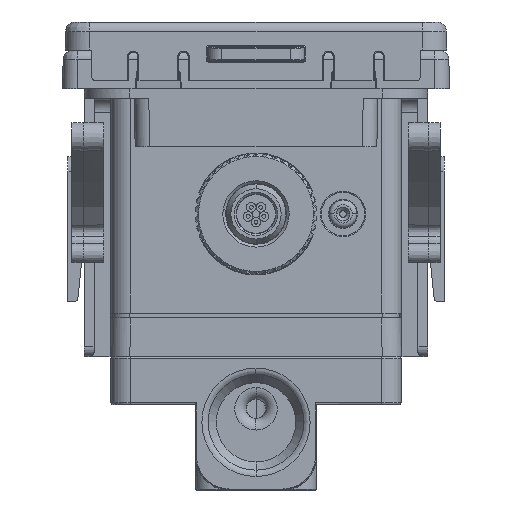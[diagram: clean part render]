
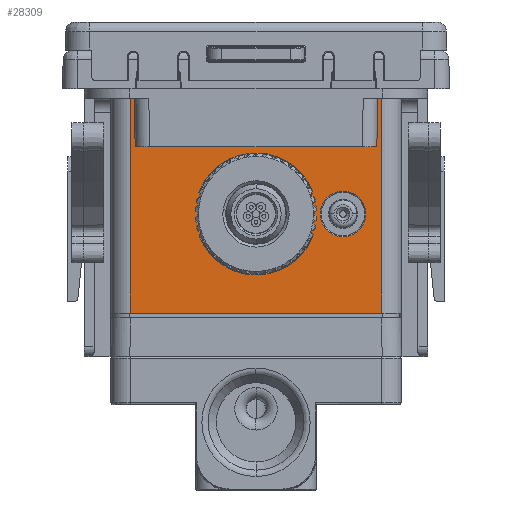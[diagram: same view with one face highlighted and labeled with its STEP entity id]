
A CAD part, front view. The second image highlights one B-rep face of the part: STEP entity #28309.
In plain terms, the highlighted planar face has unit normal (0, -1, 0).
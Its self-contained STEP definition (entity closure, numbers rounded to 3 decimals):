
#3234=DIRECTION('',(1.,0.,0.));
#3235=VECTOR('',#3234,26.);
#3236=CARTESIAN_POINT('',(-13.,-15.,4.5));
#3237=LINE('',#3236,#3235);
#3238=DIRECTION('',(0.,0.,-1.));
#3239=VECTOR('',#3238,25.2);
#3240=CARTESIAN_POINT('',(-13.,-15.,29.7));
#3241=LINE('',#3240,#3239);
#3242=DIRECTION('',(1.,0.,0.));
#3243=VECTOR('',#3242,26.);
#3244=CARTESIAN_POINT('',(-13.,-15.,29.7));
#3245=LINE('',#3244,#3243);
#3246=DIRECTION('',(0.,0.,-1.));
#3247=VECTOR('',#3246,25.2);
#3248=CARTESIAN_POINT('',(13.,-15.,29.7));
#3249=LINE('',#3248,#3247);
#3250=CARTESIAN_POINT('',(0.,-15.,14.75));
#3251=DIRECTION('',(0.,-1.,0.));
#3252=DIRECTION('',(-0.898,0.,-0.44));
#3253=AXIS2_PLACEMENT_3D('',#3250,#3251,#3252);
#3255=DIRECTION('',(-0.017,0.,-1.));
#3256=VECTOR('',#3255,2.35);
#3257=CARTESIAN_POINT('',(5.8,-15.,14.75));
#3258=LINE('',#3257,#3256);
#3259=DIRECTION('',(0.017,0.,-1.));
#3260=VECTOR('',#3259,2.35);
#3261=CARTESIAN_POINT('',(5.759,-15.,17.1));
#3262=LINE('',#3261,#3260);
#3263=CARTESIAN_POINT('',(0.,-15.,14.75));
#3264=DIRECTION('',(0.,-1.,0.));
#3265=DIRECTION('',(0.898,0.,0.44));
#3266=AXIS2_PLACEMENT_3D('',#3263,#3264,#3265);
#3268=DIRECTION('',(0.017,0.,1.));
#3269=VECTOR('',#3268,2.35);
#3270=CARTESIAN_POINT('',(-5.8,-15.,14.75));
#3271=LINE('',#3270,#3269);
#3272=DIRECTION('',(-0.017,0.,1.));
#3273=VECTOR('',#3272,2.35);
#3274=CARTESIAN_POINT('',(-5.759,-15.,12.4));
#3275=LINE('',#3274,#3273);
#3276=CARTESIAN_POINT('',(9.,-15.,14.75));
#3277=DIRECTION('',(0.,1.,0.));
#3278=DIRECTION('',(-1.,0.,0.));
#3279=AXIS2_PLACEMENT_3D('',#3276,#3277,#3278);
#3281=CARTESIAN_POINT('',(9.,-15.,14.75));
#3282=DIRECTION('',(0.,1.,0.));
#3283=DIRECTION('',(1.,0.,0.));
#3284=AXIS2_PLACEMENT_3D('',#3281,#3282,#3283);
#14202=CARTESIAN_POINT('',(-4.759,-15.,17.083));
#14203=DIRECTION('',(0.,1.,0.));
#14204=DIRECTION('',(-1.,0.,0.017));
#14205=AXIS2_PLACEMENT_3D('',#14202,#14203,#14204);
#14955=CARTESIAN_POINT('',(4.759,-15.,17.083));
#14956=DIRECTION('',(0.,1.,0.));
#14957=DIRECTION('',(0.898,0.,0.44));
#14958=AXIS2_PLACEMENT_3D('',#14955,#14956,#14957);
#15009=CARTESIAN_POINT('',(4.759,-15.,12.417));
#15010=DIRECTION('',(0.,1.,0.));
#15011=DIRECTION('',(1.,0.,-0.017));
#15012=AXIS2_PLACEMENT_3D('',#15009,#15010,#15011);
#18255=CARTESIAN_POINT('',(-4.759,-15.,12.417));
#18256=DIRECTION('',(0.,1.,0.));
#18257=DIRECTION('',(-0.898,0.,-0.44));
#18258=AXIS2_PLACEMENT_3D('',#18255,#18256,#18257);
#20751=CARTESIAN_POINT('',(-13.,-15.,4.5));
#20752=CARTESIAN_POINT('',(13.,-15.,4.5));
#20753=VERTEX_POINT('',#20751);
#20754=VERTEX_POINT('',#20752);
#20775=CARTESIAN_POINT('',(13.,-15.,29.7));
#20776=VERTEX_POINT('',#20775);
#20781=CARTESIAN_POINT('',(-13.,-15.,29.7));
#20782=VERTEX_POINT('',#20781);
#20861=CARTESIAN_POINT('',(6.646,-15.,14.75));
#20862=CARTESIAN_POINT('',(11.354,-15.,14.75));
#20863=VERTEX_POINT('',#20861);
#20864=VERTEX_POINT('',#20862);
#21055=CARTESIAN_POINT('',(5.8,-15.,14.75));
#21056=VERTEX_POINT('',#21055);
#21066=CARTESIAN_POINT('',(5.759,-15.,17.1));
#21067=VERTEX_POINT('',#21066);
#21068=CARTESIAN_POINT('',(5.759,-15.,12.4));
#21069=VERTEX_POINT('',#21068);
#21070=CARTESIAN_POINT('',(5.657,-15.,17.523));
#21071=VERTEX_POINT('',#21070);
#21072=CARTESIAN_POINT('',(5.657,-15.,11.977));
#21073=VERTEX_POINT('',#21072);
#21081=CARTESIAN_POINT('',(-5.657,-15.,17.523));
#21082=VERTEX_POINT('',#21081);
#21083=CARTESIAN_POINT('',(-5.657,-15.,11.977));
#21084=VERTEX_POINT('',#21083);
#21095=CARTESIAN_POINT('',(-5.759,-15.,12.4));
#21096=CARTESIAN_POINT('',(-5.8,-15.,14.75));
#21097=VERTEX_POINT('',#21095);
#21098=VERTEX_POINT('',#21096);
#21099=CARTESIAN_POINT('',(-5.759,-15.,17.1));
#21100=VERTEX_POINT('',#21099);
#28268=CARTESIAN_POINT('',(-15.,-15.,2.9));
#28269=DIRECTION('',(0.,-1.,0.));
#28270=DIRECTION('',(1.,0.,0.));
#28271=AXIS2_PLACEMENT_3D('',#28268,#28269,#28270);
#28272=PLANE('',#28271);
#28273=ORIENTED_EDGE('',*,*,#26961,.F.);
#28275=ORIENTED_EDGE('',*,*,#28274,.F.);
#28277=ORIENTED_EDGE('',*,*,#28276,.T.);
#28278=ORIENTED_EDGE('',*,*,#28260,.T.);
#28279=EDGE_LOOP('',(#28273,#28275,#28277,#28278));
#28280=FACE_OUTER_BOUND('',#28279,.F.);
#28282=ORIENTED_EDGE('',*,*,#28281,.T.);
#28284=ORIENTED_EDGE('',*,*,#28283,.F.);
#28286=ORIENTED_EDGE('',*,*,#28285,.F.);
#28288=ORIENTED_EDGE('',*,*,#28287,.F.);
#28290=ORIENTED_EDGE('',*,*,#28289,.F.);
#28292=ORIENTED_EDGE('',*,*,#28291,.T.);
#28294=ORIENTED_EDGE('',*,*,#28293,.F.);
#28296=ORIENTED_EDGE('',*,*,#28295,.F.);
#28298=ORIENTED_EDGE('',*,*,#28297,.F.);
#28300=ORIENTED_EDGE('',*,*,#28299,.F.);
#28301=EDGE_LOOP('',(#28282,#28284,#28286,#28288,#28290,#28292,#28294,#28296,
#28298,#28300));
#28302=FACE_BOUND('',#28301,.F.);
#28304=ORIENTED_EDGE('',*,*,#28303,.F.);
#28306=ORIENTED_EDGE('',*,*,#28305,.F.);
#28307=EDGE_LOOP('',(#28304,#28306));
#28308=FACE_BOUND('',#28307,.F.);
#28309=ADVANCED_FACE('',(#28280,#28302,#28308),#28272,.T.);
#3254=CIRCLE('',#3253,6.3);
#3267=CIRCLE('',#3266,6.3);
#3280=CIRCLE('',#3279,2.354);
#3285=CIRCLE('',#3284,2.354);
#14206=CIRCLE('',#14205,1.);
#14959=CIRCLE('',#14958,1.);
#15013=CIRCLE('',#15012,1.);
#18259=CIRCLE('',#18258,1.);
#26961=EDGE_CURVE('',#20753,#20754,#3237,.T.);
#28260=EDGE_CURVE('',#20776,#20754,#3249,.T.);
#28274=EDGE_CURVE('',#20782,#20753,#3241,.T.);
#28276=EDGE_CURVE('',#20782,#20776,#3245,.T.);
#28281=EDGE_CURVE('',#21084,#21073,#3254,.T.);
#28283=EDGE_CURVE('',#21069,#21073,#15013,.T.);
#28285=EDGE_CURVE('',#21056,#21069,#3258,.T.);
#28287=EDGE_CURVE('',#21067,#21056,#3262,.T.);
#28289=EDGE_CURVE('',#21071,#21067,#14959,.T.);
#28291=EDGE_CURVE('',#21071,#21082,#3267,.T.);
#28293=EDGE_CURVE('',#21100,#21082,#14206,.T.);
#28295=EDGE_CURVE('',#21098,#21100,#3271,.T.);
#28297=EDGE_CURVE('',#21097,#21098,#3275,.T.);
#28299=EDGE_CURVE('',#21084,#21097,#18259,.T.);
#28303=EDGE_CURVE('',#20863,#20864,#3280,.T.);
#28305=EDGE_CURVE('',#20864,#20863,#3285,.T.);
